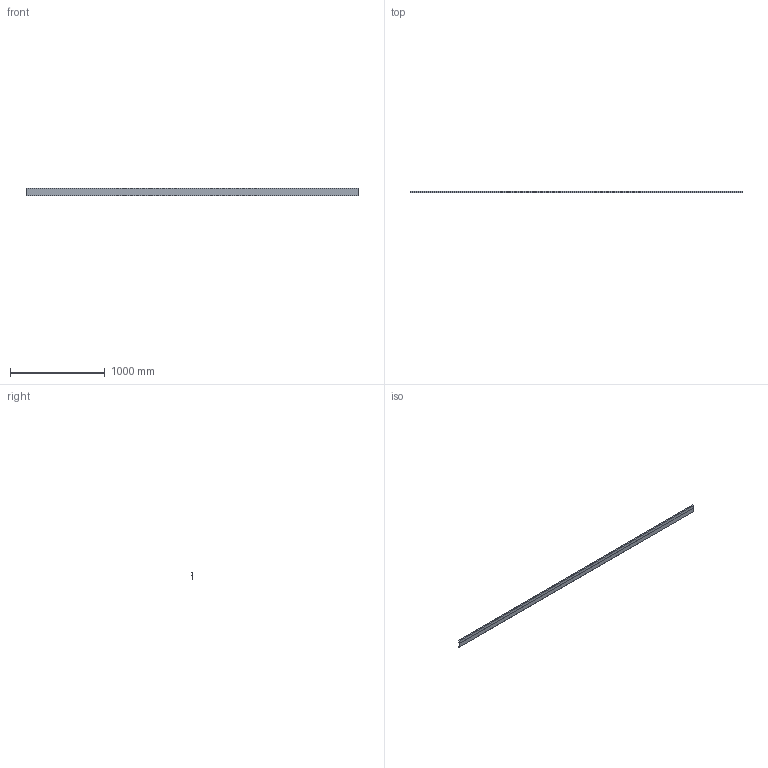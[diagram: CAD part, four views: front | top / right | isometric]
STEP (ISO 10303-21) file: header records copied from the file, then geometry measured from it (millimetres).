
FILE_DESCRIPTION(('STEP AP242'),'1');
FILE_NAME('OPO_65.082.17_volu_3d.stp','2026-01-30T20:53:23',(' '),(' '),'Spatial InterOp 3D',' ',' ');
FILE_SCHEMA(('AP242_MANAGED_MODEL_BASED_3D_ENGINEERING_MIM_LF {1 0 10303 442 1 1 4}'));
Length unit declared in the file: millimetre
Products named in the file (1): 1
Bounding box: 3500 x 15.5 x 79 mm (x, y, z)
Volume: 392000 mm3; surface area: 791224 mm2
Topology: 1 solids, 1 shells, 60 faces, 160 edges, 106 vertices
Faces by surface type: plane 40, cylinder 20
Entity records: 2364 total; most frequent: CARTESIAN_POINT 327, DIRECTION 322, ORIENTED_EDGE 320, EDGE_CURVE 160, LINE 120, VECTOR 120, VERTEX_POINT 106, AXIS2_PLACEMENT_3D 101
